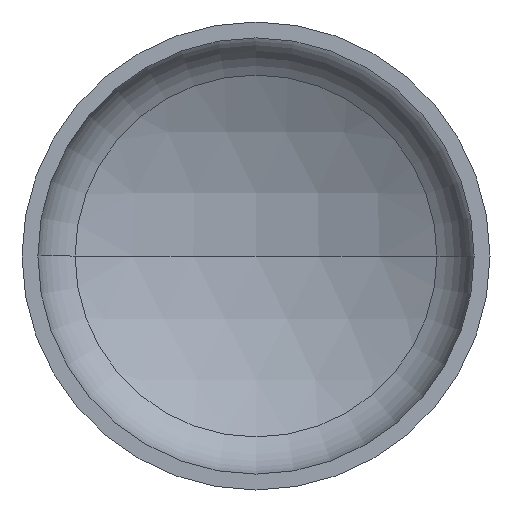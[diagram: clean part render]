
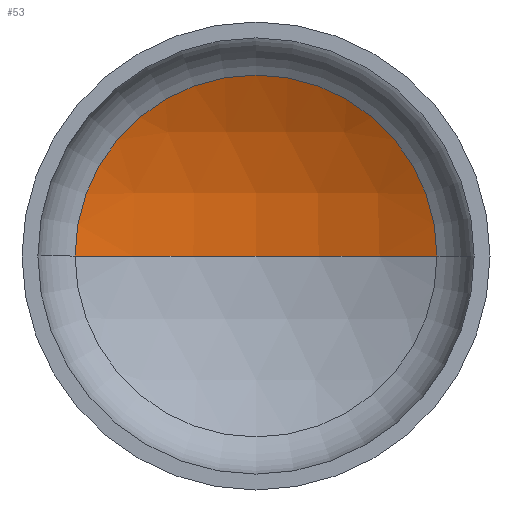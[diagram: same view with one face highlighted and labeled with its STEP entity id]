
A CAD part, front view. The second image highlights one B-rep face of the part: STEP entity #53.
In plain terms, the highlighted spherical face has radius 1040 mm.
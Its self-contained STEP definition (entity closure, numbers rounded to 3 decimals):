
#2 = CARTESIAN_POINT ( 'NONE',  ( 0., 315.087, 0. ) ) ;
#9 = ORIENTED_EDGE ( 'NONE', *, *, #168, .F. ) ;
#10 = DIRECTION ( 'NONE',  ( 0., -1., 0. ) ) ;
#29 = VERTEX_POINT ( 'NONE', #252 ) ;
#30 = VERTEX_POINT ( 'NONE', #350 ) ;
#32 = AXIS2_PLACEMENT_3D ( 'NONE', #219, #266, #259 ) ;
#33 = AXIS2_PLACEMENT_3D ( 'NONE', #187, #203, #207 ) ;
#35 = AXIS2_PLACEMENT_3D ( 'NONE', #2, #10, #200 ) ;
#53 = ADVANCED_FACE ( 'NONE', ( #275 ), #393, .F. ) ;
#56 = AXIS2_PLACEMENT_3D ( 'NONE', #288, #359, #270 ) ;
#74 = VERTEX_POINT ( 'NONE', #287 ) ;
#141 = ORIENTED_EDGE ( 'NONE', *, *, #142, .T. ) ;
#142 = EDGE_CURVE ( 'NONE', #74, #29, #314, .T. ) ;
#143 = ORIENTED_EDGE ( 'NONE', *, *, #159, .T. ) ;
#159 = EDGE_CURVE ( 'NONE', #30, #74, #191, .T. ) ;
#168 = EDGE_CURVE ( 'NONE', #30, #29, #256, .T. ) ;
#187 = CARTESIAN_POINT ( 'NONE',  ( 0., -595.367, 0. ) ) ;
#191 = CIRCLE ( 'NONE', #33, 1040. ) ;
#200 = DIRECTION ( 'NONE',  ( 1., 0., 0. ) ) ;
#203 = DIRECTION ( 'NONE',  ( 0., 0., -1. ) ) ;
#207 = DIRECTION ( 'NONE',  ( -1., 0., 0. ) ) ;
#219 = CARTESIAN_POINT ( 'NONE',  ( 0., -595.367, 0. ) ) ;
#252 = CARTESIAN_POINT ( 'NONE',  ( -502.667, 315.087, 0. ) ) ;
#256 = CIRCLE ( 'NONE', #32, 1040. ) ;
#259 = DIRECTION ( 'NONE',  ( 1., 0., 0. ) ) ;
#266 = DIRECTION ( 'NONE',  ( 0., 0., 1. ) ) ;
#270 = DIRECTION ( 'NONE',  ( -1., 0., 0. ) ) ;
#275 = FACE_OUTER_BOUND ( 'NONE', #286, .T. ) ;
#286 = EDGE_LOOP ( 'NONE', ( #9, #143, #141 ) ) ;
#287 = CARTESIAN_POINT ( 'NONE',  ( 502.667, 315.087, 0. ) ) ;
#288 = CARTESIAN_POINT ( 'NONE',  ( 0., -595.367, 0. ) ) ;
#314 = CIRCLE ( 'NONE', #35, 502.667 ) ;
#350 = CARTESIAN_POINT ( 'NONE',  ( 0., 444.633, 0. ) ) ;
#359 = DIRECTION ( 'NONE',  ( 0., 0., -1. ) ) ;
#393 = SPHERICAL_SURFACE ( 'NONE', #56, 1040. ) ;
